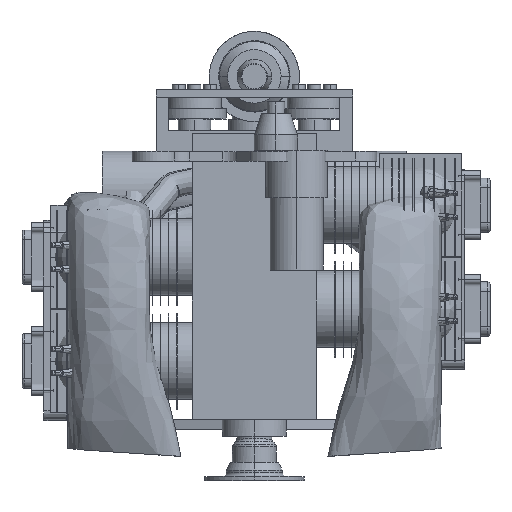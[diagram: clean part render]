
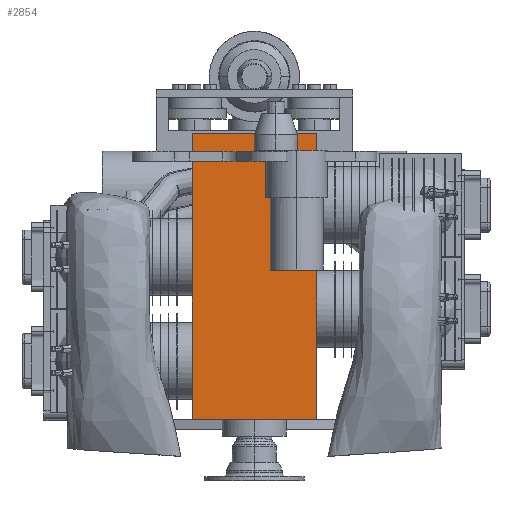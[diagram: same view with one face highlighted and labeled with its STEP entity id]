
A CAD part, top view. The second image highlights one B-rep face of the part: STEP entity #2854.
In plain terms, the highlighted planar face has unit normal (0, 0, 1).
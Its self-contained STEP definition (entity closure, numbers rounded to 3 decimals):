
#1929=PLANE($,#17251);
#2854=ADVANCED_FACE($,(#4084),#1929,.T.);
#4084=FACE_OUTER_BOUND($,#5326,.T.);
#5326=EDGE_LOOP($,(#7813,#7814,#7815,#7816));
#7813=ORIENTED_EDGE($,*,*,#11874,.T.);
#7814=ORIENTED_EDGE($,*,*,#11875,.T.);
#7815=ORIENTED_EDGE($,*,*,#11876,.T.);
#7816=ORIENTED_EDGE($,*,*,#11877,.T.);
#11874=EDGE_CURVE($,#14086,#14087,#15820,.T.);
#11875=EDGE_CURVE($,#14087,#14088,#15821,.T.);
#11876=EDGE_CURVE($,#14088,#14089,#15822,.T.);
#11877=EDGE_CURVE($,#14089,#14086,#15823,.T.);
#14086=VERTEX_POINT($,#26504);
#14087=VERTEX_POINT($,#26505);
#14088=VERTEX_POINT($,#26506);
#14089=VERTEX_POINT($,#26507);
#15820=B_SPLINE_CURVE_WITH_KNOTS($,1,(#26478,#26479),.UNSPECIFIED.,.F.,.F.,
(2,2),(0.,156.),.UNSPECIFIED.);
#15821=B_SPLINE_CURVE_WITH_KNOTS($,1,(#26480,#26481),.UNSPECIFIED.,.F.,.F.,
(2,2),(0.,357.5),.UNSPECIFIED.);
#15822=B_SPLINE_CURVE_WITH_KNOTS($,1,(#26482,#26483),.UNSPECIFIED.,.F.,.F.,
(2,2),(0.,156.),.UNSPECIFIED.);
#15823=B_SPLINE_CURVE_WITH_KNOTS($,1,(#26484,#26485),.UNSPECIFIED.,.F.,.F.,
(2,2),(0.,357.5),.UNSPECIFIED.);
#17251=AXIS2_PLACEMENT_3D($,#26499,#18045,$);
#18045=DIRECTION($,(0.,0.,1.));
#26478=CARTESIAN_POINT($,(-78.,76.5,70.));
#26479=CARTESIAN_POINT($,(78.,76.5,70.));
#26480=CARTESIAN_POINT($,(78.,76.5,70.));
#26481=CARTESIAN_POINT($,(78.,434.,70.));
#26482=CARTESIAN_POINT($,(78.,434.,70.));
#26483=CARTESIAN_POINT($,(-78.,434.,70.));
#26484=CARTESIAN_POINT($,(-78.,434.,70.));
#26485=CARTESIAN_POINT($,(-78.,76.5,70.));
#26499=CARTESIAN_POINT($,(-78.,76.5,70.));
#26504=CARTESIAN_POINT($,(-78.,76.5,70.));
#26505=CARTESIAN_POINT($,(78.,76.5,70.));
#26506=CARTESIAN_POINT($,(78.,434.,70.));
#26507=CARTESIAN_POINT($,(-78.,434.,70.));
